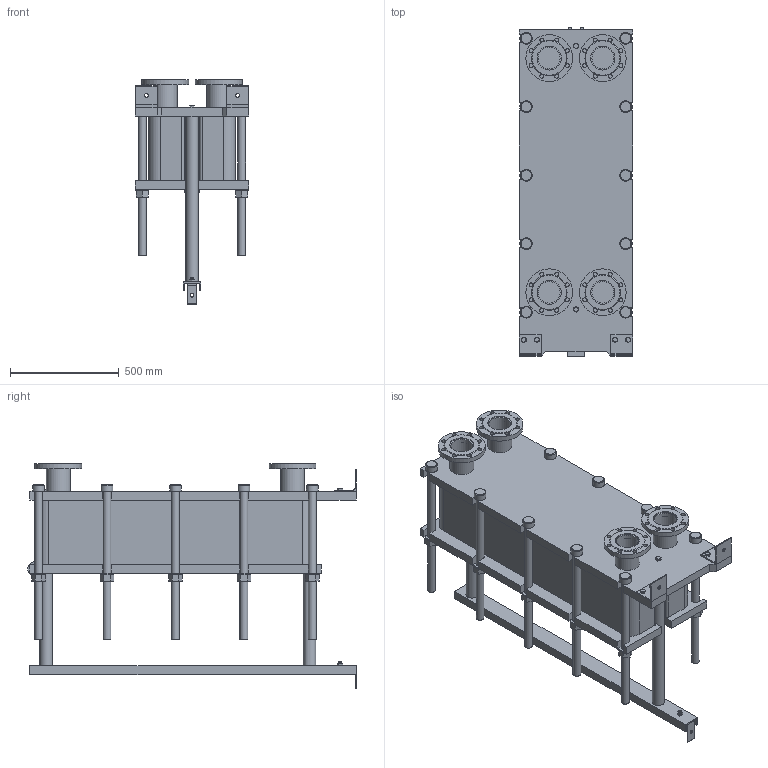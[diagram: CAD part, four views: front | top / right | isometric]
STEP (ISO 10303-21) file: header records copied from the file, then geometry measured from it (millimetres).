
FILE_DESCRIPTION(/* description */ (''),/* implementation_level */ '2;1');
FILE_NAME(/* name */ 'C:\Users\zhuro\Desktop\ENCO\TO\ЭН-04\ЭН-0,5-04-86-1.stp',/* time_stamp */ '2022-06-06T10:52:23+03:00',/* author */ ('zhuro'),/* organization */ (''),/* preprocessor_version */ 'ST-DEVELOPER v18.1',/* originating_system */ 'Autodesk Inventor 2022',/* authorisation */ '');
FILE_SCHEMA (('AUTOMOTIVE_DESIGN { 1 0 10303 214 3 1 1 }'));
Length unit declared in the file: millimetre
Products named in the file (1): ЭН-0,5-04-86-1
Bounding box: 520 x 1510 x 1038 mm (x, y, z)
Volume: 218729831.9 mm3; surface area: 8047400.6 mm2
Topology: 45 solids, 45 shells, 668 faces, 1611 edges, 1048 vertices
Faces by surface type: plane 457, cylinder 166, cone 39, torus 6
Full cylindrical faces by diameter (mm): 8 x4, 10 x2, 16 x8, 18 x35, 36 x25, 40 x2, 42 x1, 45 x4, 54 x10, 57 x2, 60 x10, 68 x2, 100 x4, 110 x8, 215 x4
Entity records: 23607 total; most frequent: CARTESIAN_POINT 7348, DIRECTION 3371, ORIENTED_EDGE 3142, EDGE_CURVE 1571, AXIS2_PLACEMENT_3D 1199, VERTEX_POINT 1044, LINE 973, VECTOR 973
